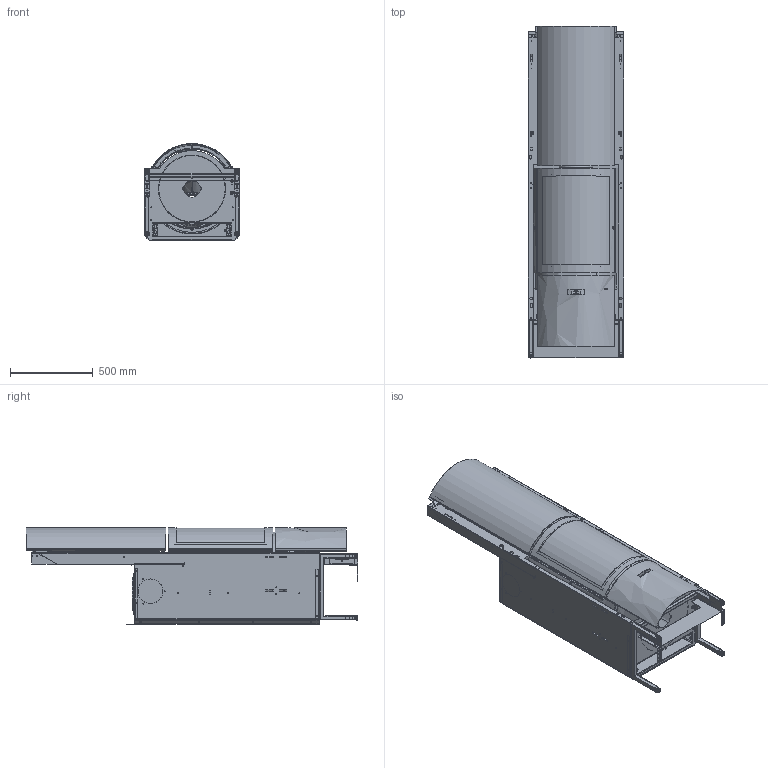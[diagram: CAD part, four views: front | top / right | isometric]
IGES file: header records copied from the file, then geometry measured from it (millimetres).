
Start section:  PTC IGES file: 30inp.igs
Global section: file name: 30inp.igs; native system: Creo Parametric by Parametric Technology Corporation; preprocessor: 2013410; author: dch; organization: Unknown; date: 20140320.135841; units: millimetre
Bounding box: 576.5 x 2000 x 584.5 mm (x, y, z)
Volume: 8850597.8 mm3; surface area: 10980952.5 mm2
Topology: 14 solids, 19 shells, 3166 faces, 8581 edges, 5458 vertices
Faces by surface type: bspline 1852, revolution 1314
